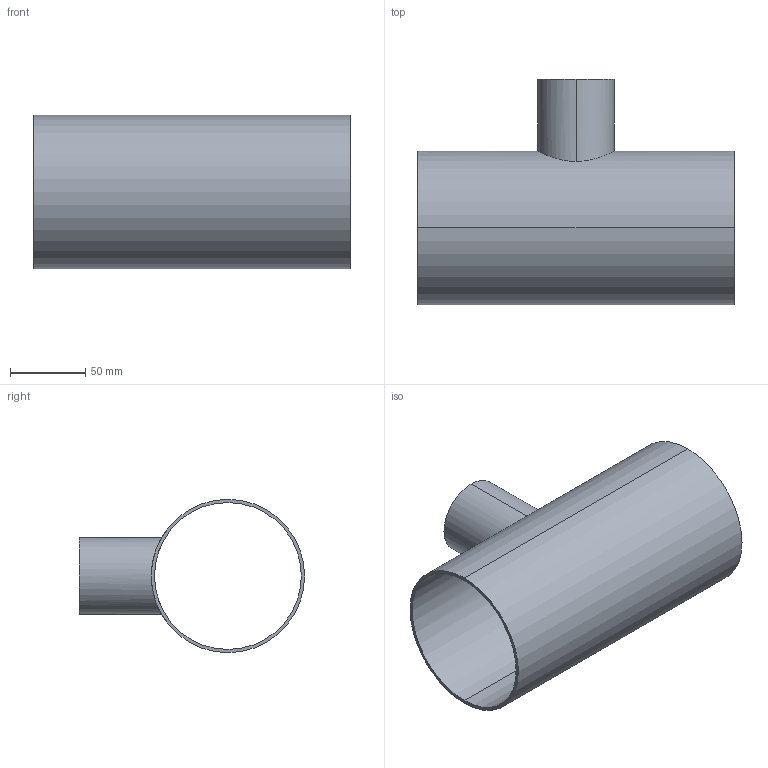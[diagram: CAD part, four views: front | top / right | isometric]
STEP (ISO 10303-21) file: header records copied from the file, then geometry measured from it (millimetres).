
FILE_DESCRIPTION (( 'STEP AP214' ), '1' );
FILE_NAME ('TE7RWWW6L4.0x2.0-...STEP', '2016-05-24T04:33:59', ( 'eran' ), ( '' ), 'SwSTEP 2.0', 'SolidWorks 2016', '' );
FILE_SCHEMA (( 'AUTOMOTIVE_DESIGN' ));
Length unit declared in the file: millimetre
Products named in the file (1): TE7RWWW6L4.0x2.0-..
Bounding box: 209.6 x 149.2 x 101.6 mm (x, y, z)
Volume: 147296.6 mm3; surface area: 144672 mm2
Topology: 1 solids, 1 shells, 11 faces, 24 edges, 16 vertices
Faces by surface type: cylinder 8, plane 3
Entity records: 622 total; most frequent: CARTESIAN_POINT 330, DIRECTION 56, ORIENTED_EDGE 48, EDGE_CURVE 24, AXIS2_PLACEMENT_3D 24, VERTEX_POINT 16, EDGE_LOOP 16, CIRCLE 12
